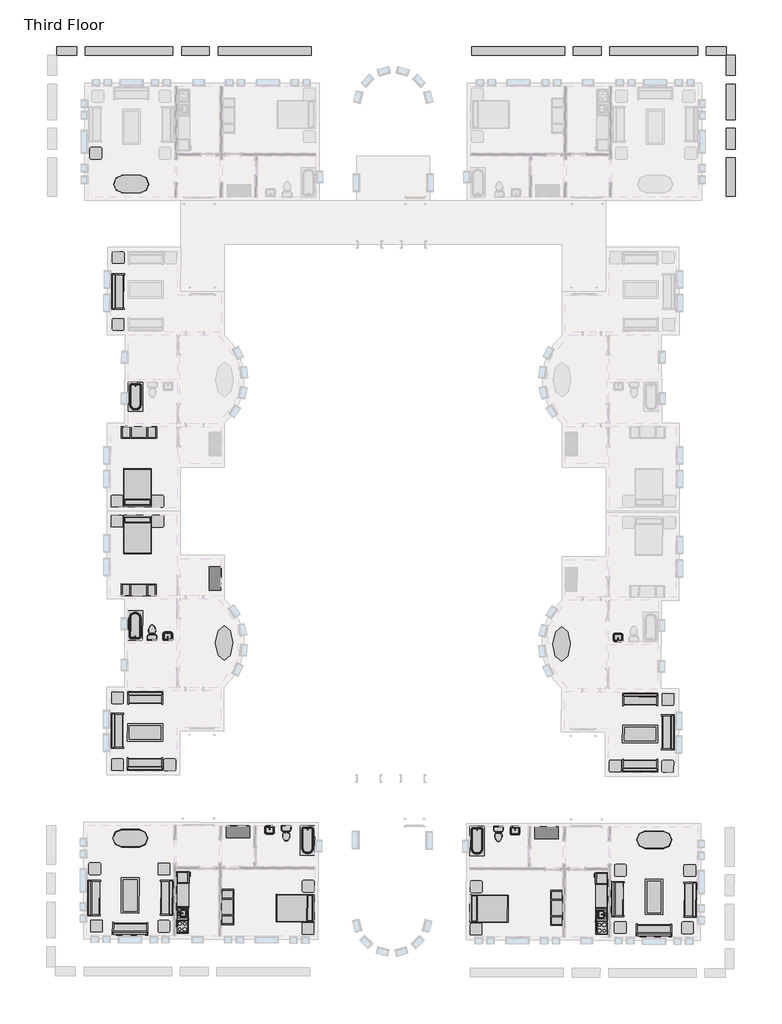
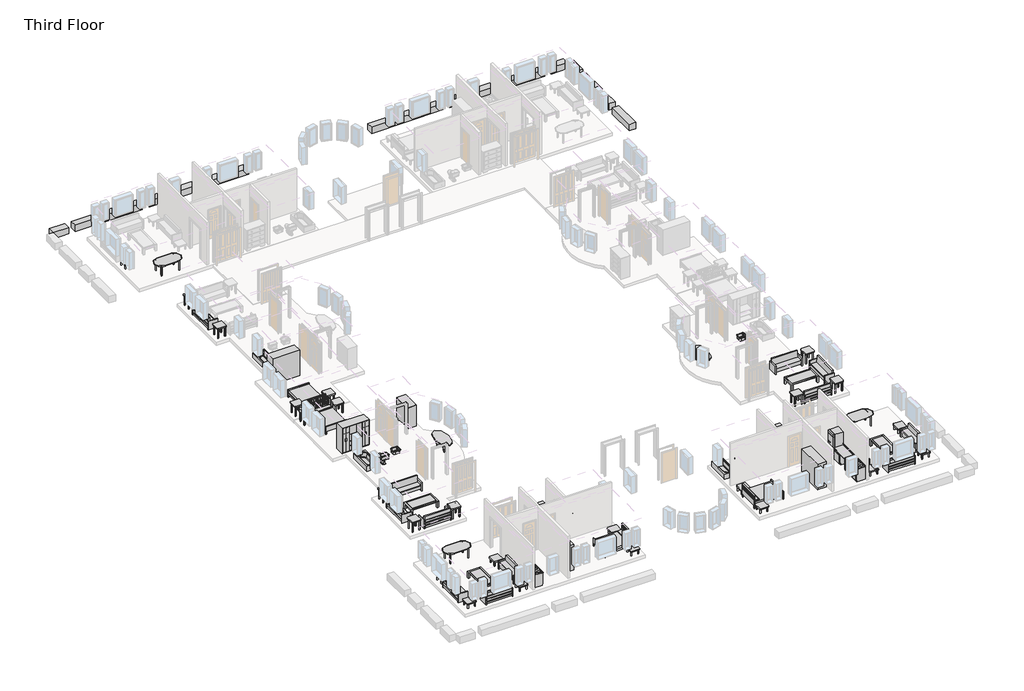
# One storey, part 4 of 5: 60 furniture elements, 13 flow terminals, 8 proxies, 3 beams.
"""IFC4 building model written with IfcOpenShell, lengths in millimetres."""

from ifc_helpers import new_model, si_unit, frame, origin, place, context, project, spatial, polyline, outline, extrude, transform, mapped, element, save
from components import m_cook_top_4_unit2_0615_x_500mm_249f3515, m_cook_top_4_unit2_0615_x_500mm_c91639ce, m_dishwasher_610_x_610_x_875mm_54ecfc4c, m_dishwasher_610_x_610_x_875mm_75336c20, m_kitchenette_medium_1372mm_e05c6bec, m_kitchenette_medium_1372mm_39f1532f, m_refrigerator_600_x_660mm_a466bf94, m_refrigerator_600_x_660mm_0a899b9c, m_sink_kitchen_island_450_x_450mm_f969cf2d, m_sink_kitchen_island_450_x_450mm_f6c2c534, m_sink_vanity_square_500_x_440mm_1e229b74, m_sink_vanity_square_500_x_440mm_f3cfe680, m_toilet_domestic_3d_m_toilet_domestic_3d_5cb52bd4, m_toilet_domestic_3d_m_toilet_domestic_3d_183bbd19, m_toilet_domestic_3d_m_toilet_domestic_3d_43425dfb, m_toilet_domestic_3d_m_toilet_domestic_3d_5530cc89, m_tub_rectangular_3d_m_tub_rectangular_3d_3a981ad5, m_tub_rectangular_3d_m_tub_rectangular_3d_c2020133, m_bed_shaker_1422_x_1981mm_double_096e7f55, m_bed_shaker_1422_x_1981mm_double_097b173b, m_counter_top_w_sink_hole_600mm_depth_1fb56bb9, m_counter_top_w_sink_hole_600mm_depth_7e9aa94d, m_dresser_1220_x_1525_x_0610mm_18e1f140, m_dresser_1220_x_1525_x_0610mm_4e5de046, m_entertainment_center_1830_x_1830_x_0610mm_f77a9b93, m_entertainment_center_1830_x_1830_x_0610mm_4f6058a0, m_sofa_1830mm_58d08fc1, m_sofa_1830mm_3da2e71b, m_sofa1_1830mm_f9e8a66b, m_sofa1_1830mm_493d6964, m_table_coffee_0915_x_1830_x_0457mm_134cd960, m_table_coffee_0915_x_1830_x_0457mm_595c1ebd, m_table_dining_oval_0915_x_1830mm_a7cfbe21, m_table_dining_oval_0915_x_1830mm_ad8305c5, m_table_ellipse_1800_x_900mm_fd46d5a5, m_table_ellipse_1800_x_900mm_f7269293, m_table_end_cb6ea12e, m_table_end_aa2764bc, m_table_end_0610_x_0160mm_e0e5b28f, m_table_end_0610_x_0160mm_ccef8dc9

model = new_model("IFC4")

# Units and contexts
model_context = context("Model", 3, world=origin())
ifc_project = project(units=[si_unit("LENGTHUNIT", "METRE", prefix="MILLI")], contexts=[model_context])

# Site, building, storey
site = spatial("IfcSite", under=ifc_project)
building = spatial("IfcBuilding", under=site)
storey = spatial("IfcBuildingStorey", under=building, Name="Third Floor", Elevation=6096.0)

# Beams
placement = place(None, origin())
element("IfcBeam", 1, ObjectType="M_Concrete-Rectangular Beam : 450 x 450", at=placement, inside=storey, context=model_context, shape_type="SweptSolid", body=[
    extrude(outline(polyline([(-1643.3416203, 4481.1188386), (-1643.3416203, 4031.1188386), (-2693.3416203, 4031.1188386), (-2693.3416203, 4481.1188386), (-1643.3416203, 4481.1188386)])), frame((0.0, 0.0, 5646.0), z_axis=(0.0, 0.0, 1.0), x_axis=(1.0, 0.0, 0.0)), (0.0, 0.0, 1.0), 450.0),
    extrude(outline(polyline([(-14885.3416203, 4031.1188386), (-14885.3416203, 4481.1188386), (-10043.3416203, 4481.1188386), (-10043.3416203, 4031.1188386), (-14885.3416203, 4031.1188386)])), frame((0.0, 0.0, 5646.0), z_axis=(0.0, 0.0, 1.0), x_axis=(1.0, 0.0, 0.0)), (0.0, 0.0, 1.0), 450.0),
    extrude(outline(polyline([(-3143.3416203, 4481.1188386), (-3143.3416203, 4031.1188386), (-7693.3416203, 4031.1188386), (-7693.3416203, 4481.1188386), (-3143.3416203, 4481.1188386)])), frame((0.0, 0.0, 5646.0), z_axis=(0.0, 0.0, 1.0), x_axis=(1.0, 0.0, 0.0)), (0.0, 0.0, 1.0), 450.0),
    extrude(outline(polyline([(-8143.3416203, 4481.1188386), (-8143.3416203, 4031.1188386), (-9593.3416203, 4031.1188386), (-9593.3416203, 4481.1188386), (-8143.3416203, 4481.1188386)])), frame((0.0, 0.0, 5646.0), z_axis=(0.0, 0.0, 1.0), x_axis=(1.0, 0.0, 0.0)), (0.0, 0.0, 1.0), 450.0),
])
element("IfcBeam", 2, ObjectType="M_Concrete-Rectangular Beam : 450 x 450", at=placement, inside=storey, context=model_context, shape_type="SweptSolid", body=[
    extrude(outline(polyline([(-1643.3416203, 4031.1188386), (-1193.3416203, 4031.1188386), (-1193.3416203, 2981.1188386), (-1643.3416203, 2981.1188386), (-1643.3416203, 4031.1188386)])), frame((0.0, 0.0, 5646.0), z_axis=(0.0, 0.0, 1.0), x_axis=(1.0, 0.0, 0.0)), (0.0, 0.0, 1.0), 450.0),
    extrude(outline(polyline([(-1193.3416203, -3289.8811614), (-1643.3416203, -3289.8811614), (-1643.3416203, -1295.3811614), (-1193.3416203, -1295.3811614), (-1193.3416203, -3289.8811614)])), frame((0.0, 0.0, 5646.0), z_axis=(0.0, 0.0, 1.0), x_axis=(1.0, 0.0, 0.0)), (0.0, 0.0, 1.0), 450.0),
    extrude(outline(polyline([(-1643.3416203, 2531.1188386), (-1193.3416203, 2531.1188386), (-1193.3416203, 681.1188386), (-1643.3416203, 681.1188386), (-1643.3416203, 2531.1188386)])), frame((0.0, 0.0, 5646.0), z_axis=(0.0, 0.0, 1.0), x_axis=(1.0, 0.0, 0.0)), (0.0, 0.0, 1.0), 450.0),
    extrude(outline(polyline([(-1643.3416203, 231.1188386), (-1193.3416203, 231.1188386), (-1193.3416203, -845.3811614), (-1643.3416203, -845.3811614), (-1643.3416203, 231.1188386)])), frame((0.0, 0.0, 5646.0), z_axis=(0.0, 0.0, 1.0), x_axis=(1.0, 0.0, 0.0)), (0.0, 0.0, 1.0), 450.0),
])
element("IfcBeam", 3, ObjectType="M_Concrete-Rectangular Beam : 450 x 450", at=placement, inside=storey, context=model_context, shape_type="SweptSolid", body=[
    extrude(outline(polyline([(-36458.8416203, 4031.1188386), (-36458.8416203, 4481.1188386), (-35408.8416203, 4481.1188386), (-35408.8416203, 4031.1188386), (-36458.8416203, 4031.1188386)])), frame((0.0, 0.0, 5646.0), z_axis=(0.0, 0.0, 1.0), x_axis=(1.0, 0.0, 0.0)), (0.0, 0.0, 1.0), 450.0),
    extrude(outline(polyline([(-23216.8416203, 4481.1188386), (-23216.8416203, 4031.1188386), (-28058.8416203, 4031.1188386), (-28058.8416203, 4481.1188386), (-23216.8416203, 4481.1188386)])), frame((0.0, 0.0, 5646.0), z_axis=(0.0, 0.0, 1.0), x_axis=(1.0, 0.0, 0.0)), (0.0, 0.0, 1.0), 450.0),
    extrude(outline(polyline([(-34958.8416203, 4031.1188386), (-34958.8416203, 4481.1188386), (-30408.8416203, 4481.1188386), (-30408.8416203, 4031.1188386), (-34958.8416203, 4031.1188386)])), frame((0.0, 0.0, 5646.0), z_axis=(0.0, 0.0, 1.0), x_axis=(1.0, 0.0, 0.0)), (0.0, 0.0, 1.0), 450.0),
    extrude(outline(polyline([(-29958.8416203, 4031.1188386), (-29958.8416203, 4481.1188386), (-28508.8416203, 4481.1188386), (-28508.8416203, 4031.1188386), (-29958.8416203, 4031.1188386)])), frame((0.0, 0.0, 5646.0), z_axis=(0.0, 0.0, 1.0), x_axis=(1.0, 0.0, 0.0)), (0.0, 0.0, 1.0), 450.0),
])

# Proxies
m_cook_top_4_unit2_0615_x_500mm_shape = m_cook_top_4_unit2_0615_x_500mm_249f3515(model_context)
element("IfcBuildingElementProxy", 4, Name="M_Cook Top-4 Unit2 : 0615 x 500mm", ObjectType="M_Cook Top-4 Unit2 : 0615 x 500mm", at=placement, inside=storey, context=model_context, shape_type="MappedRepresentation", body=[
    mapped(m_cook_top_4_unit2_0615_x_500mm_shape, transform((-29921.672142, -41252.4695151, 6096.0), x_axis=(0.0028948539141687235, 0.9999958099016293, 0.0), y_axis=(-0.9999958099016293, 0.0028948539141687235, 0.0), z_axis=(0.0, 0.0, 1.0))),
])
m_cook_top_4_unit2_0615_x_500mm_2_shape = m_cook_top_4_unit2_0615_x_500mm_c91639ce(model_context)
element("IfcBuildingElementProxy", 5, Name="M_Cook Top-4 Unit2 : 0615 x 500mm", ObjectType="M_Cook Top-4 Unit2 : 0615 x 500mm", at=placement, inside=storey, context=model_context, shape_type="MappedRepresentation", body=[
    mapped(m_cook_top_4_unit2_0615_x_500mm_2_shape, transform((-8117.5635037, -41315.5894888, 6096.0), x_axis=(0.0028948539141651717, 0.9999958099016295, 0.0), y_axis=(-0.9999958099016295, 0.0028948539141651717, 0.0), z_axis=(0.0, 0.0, 1.0))),
])
m_dishwasher_610_x_610_x_875mm_shape = m_dishwasher_610_x_610_x_875mm_54ecfc4c(model_context)
element("IfcBuildingElementProxy", 6, Name="M_Dishwasher : 610 x 610 x 875mm", ObjectType="M_Dishwasher : 610 x 610 x 875mm", at=placement, inside=storey, context=model_context, shape_type="MappedRepresentation", body=[
    mapped(m_dishwasher_610_x_610_x_875mm_shape, transform((-29650.5063255, -39692.7654337, 6096.0), x_axis=(0.0028948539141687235, 0.9999958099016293, 0.0), y_axis=(-0.9999958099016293, 0.0028948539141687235, 0.0), z_axis=(0.0, 0.0, 1.0))),
])
m_dishwasher_610_x_610_x_875mm_2_shape = m_dishwasher_610_x_610_x_875mm_75336c20(model_context)
element("IfcBuildingElementProxy", 7, Name="M_Dishwasher : 610 x 610 x 875mm", ObjectType="M_Dishwasher : 610 x 610 x 875mm", at=placement, inside=storey, context=model_context, shape_type="MappedRepresentation", body=[
    mapped(m_dishwasher_610_x_610_x_875mm_2_shape, transform((-8379.6945822, -39754.3415843, 6096.0), x_axis=(0.0028948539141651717, 0.9999958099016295, 0.0), y_axis=(-0.9999958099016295, 0.0028948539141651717, 0.0), z_axis=(0.0, 0.0, 1.0))),
])
m_kitchenette_medium_1372mm_shape = m_kitchenette_medium_1372mm_e05c6bec(model_context)
element("IfcBuildingElementProxy", 8, Name="M_Kitchenette - Medium : 1372mm", ObjectType="M_Kitchenette - Medium : 1372mm", at=placement, inside=storey, context=model_context, shape_type="MappedRepresentation", body=[
    mapped(m_kitchenette_medium_1372mm_shape, transform((-30225.732172, -40927.3256482, 6096.0), x_axis=(0.0028948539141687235, 0.9999958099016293, 0.0), y_axis=(-0.9999958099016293, 0.0028948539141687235, 0.0), z_axis=(0.0, 0.0, 1.0))),
])
m_kitchenette_medium_1372mm_2_shape = m_kitchenette_medium_1372mm_39f1532f(model_context)
element("IfcBuildingElementProxy", 9, Name="M_Kitchenette - Medium : 1372mm", ObjectType="M_Kitchenette - Medium : 1372mm", at=placement, inside=storey, context=model_context, shape_type="MappedRepresentation", body=[
    mapped(m_kitchenette_medium_1372mm_2_shape, transform((-7811.6260897, -40992.2114828, 6096.0), x_axis=(0.0028948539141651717, 0.9999958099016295, 0.0), y_axis=(-0.9999958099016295, 0.0028948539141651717, 0.0), z_axis=(0.0, 0.0, 1.0))),
])
m_refrigerator_600_x_660mm_shape = m_refrigerator_600_x_660mm_a466bf94(model_context)
element("IfcBuildingElementProxy", 10, Name="M_Refrigerator : 600 x 660mm", ObjectType="M_Refrigerator : 600 x 660mm", at=placement, inside=storey, context=model_context, shape_type="MappedRepresentation", body=[
    mapped(m_refrigerator_600_x_660mm_shape, transform((-29922.9251807, -38650.6538432, 6096.0), x_axis=(0.0028948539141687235, 0.9999958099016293, 0.0), y_axis=(-0.9999958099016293, 0.0028948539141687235, 0.0), z_axis=(0.0, 0.0, 1.0))),
])
m_refrigerator_600_x_660mm_2_shape = m_refrigerator_600_x_660mm_0a899b9c(model_context)
element("IfcBuildingElementProxy", 11, Name="M_Refrigerator : 600 x 660mm", ObjectType="M_Refrigerator : 600 x 660mm", at=placement, inside=storey, context=model_context, shape_type="MappedRepresentation", body=[
    mapped(m_refrigerator_600_x_660mm_2_shape, transform((-8101.2467965, -38713.824679, 6096.0), x_axis=(0.0028948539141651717, 0.9999958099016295, 0.0), y_axis=(-0.9999958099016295, 0.0028948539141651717, 0.0), z_axis=(0.0, 0.0, 1.0))),
])

# Flow terminals
m_sink_kitchen_island_450_x_450mm_shape = m_sink_kitchen_island_450_x_450mm_f969cf2d(model_context)
element("IfcFlowTerminal", 12, ObjectType="M_Sink Kitchen-Island : 450 x 450mm", at=placement, inside=storey, context=model_context, shape_type="MappedRepresentation", body=[
    mapped(m_sink_kitchen_island_450_x_450mm_shape, transform((-29917.3862989, -40582.1683539, 6096.0), x_axis=(0.0028948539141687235, 0.9999958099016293, 0.0), y_axis=(-0.9999958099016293, 0.0028948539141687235, 0.0), z_axis=(0.0, 0.0, 1.0))),
])
m_sink_kitchen_island_450_x_450mm_2_shape = m_sink_kitchen_island_450_x_450mm_f6c2c534(model_context)
element("IfcFlowTerminal", 13, ObjectType="M_Sink Kitchen-Island : 450 x 450mm", at=placement, inside=storey, context=model_context, shape_type="MappedRepresentation", body=[
    mapped(m_sink_kitchen_island_450_x_450mm_2_shape, transform((-8117.9684433, -40645.2747484, 6096.0), x_axis=(0.0028948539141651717, 0.9999958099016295, 0.0), y_axis=(-0.9999958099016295, 0.0028948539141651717, 0.0), z_axis=(0.0, 0.0, 1.0))),
])
m_sink_vanity_square_500_x_440mm_shape = m_sink_vanity_square_500_x_440mm_1e229b74(model_context)
element("IfcFlowTerminal", 14, ObjectType="M_Sink Vanity-Square : 500 x 440mm", at=placement, inside=storey, context=model_context, shape_type="MappedRepresentation", body=[
    mapped(m_sink_vanity_square_500_x_440mm_shape, transform((-7255.849628, -26269.4593372, 6096.0), x_axis=(-0.9999905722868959, 0.00434227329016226, 0.0), y_axis=(-0.0043422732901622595, -0.9999905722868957, 0.0), z_axis=(0.0, 0.0, 0.9999999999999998))),
])
element("IfcFlowTerminal", 15, ObjectType="M_Sink Vanity-Square : 500 x 440mm", at=placement, inside=storey, context=model_context, shape_type="MappedRepresentation", body=[
    mapped(m_sink_vanity_square_500_x_440mm_shape, transform((-25398.4470959, -36193.3769715, 6096.0), x_axis=(0.9999958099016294, -0.0028948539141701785, 0.0), y_axis=(0.0028948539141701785, 0.9999958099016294, 0.0), z_axis=(0.0, 0.0, 1.0))),
])
m_sink_vanity_square_500_x_440mm_2_shape = m_sink_vanity_square_500_x_440mm_f3cfe680(model_context)
element("IfcFlowTerminal", 16, ObjectType="M_Sink Vanity-Square : 500 x 440mm", at=placement, inside=storey, context=model_context, shape_type="MappedRepresentation", body=[
    mapped(m_sink_vanity_square_500_x_440mm_2_shape, transform((-12611.4221939, -36230.3936957, 6096.0), x_axis=(-0.9999958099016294, 0.002894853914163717, 0.0), y_axis=(-0.002894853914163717, -0.9999958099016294, 0.0), z_axis=(0.0, 0.0, 1.0))),
])
element("IfcFlowTerminal", 17, ObjectType="M_Sink Vanity-Square : 500 x 440mm", at=placement, inside=storey, context=model_context, shape_type="MappedRepresentation", body=[
    mapped(m_sink_vanity_square_500_x_440mm_2_shape, transform((-30696.2592425, -26201.6024913, 6096.0), x_axis=(0.9999989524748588, -0.001447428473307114, 0.0), y_axis=(0.0014474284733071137, 0.9999989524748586, 0.0), z_axis=(0.0, 0.0, 0.9999999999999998))),
])
m_toilet_domestic_3d_m_toilet_domestic_3d_shape = m_toilet_domestic_3d_m_toilet_domestic_3d_5cb52bd4(model_context)
m_toilet_domestic_3d_m_toilet_domestic_3d_2_shape = m_toilet_domestic_3d_m_toilet_domestic_3d_183bbd19(model_context)
element("IfcFlowTerminal", 18, ObjectType="M_Toilet-Domestic-3D : M_Toilet-Domestic-3D", at=placement, inside=storey, context=model_context, shape_type="MappedRepresentation", body=[
    mapped(m_toilet_domestic_3d_m_toilet_domestic_3d_shape, transform((-24522.1713775, -36508.8406097, 6096.0), x_axis=(0.9999958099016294, -0.00289485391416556, 0.0), y_axis=(0.00289485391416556, 0.9999958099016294, 0.0), z_axis=(0.0, 0.0, 1.0))),
    mapped(m_toilet_domestic_3d_m_toilet_domestic_3d_2_shape, transform((-24522.1713775, -36508.8406097, 6096.0), x_axis=(0.9999958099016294, -0.00289485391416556, 0.0), y_axis=(0.00289485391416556, 0.9999958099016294, 0.0), z_axis=(0.0, 0.0, 1.0))),
])
m_toilet_domestic_3d_m_toilet_domestic_3d_3_shape = m_toilet_domestic_3d_m_toilet_domestic_3d_43425dfb(model_context)
m_toilet_domestic_3d_m_toilet_domestic_3d_4_shape = m_toilet_domestic_3d_m_toilet_domestic_3d_5530cc89(model_context)
element("IfcFlowTerminal", 19, ObjectType="M_Toilet-Domestic-3D : M_Toilet-Domestic-3D", at=placement, inside=storey, context=model_context, shape_type="MappedRepresentation", body=[
    mapped(m_toilet_domestic_3d_m_toilet_domestic_3d_3_shape, transform((-13489.5096603, -36540.7786875, 6096.0), x_axis=(-0.9999958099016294, 0.002894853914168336, 0.0), y_axis=(-0.002894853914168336, -0.9999958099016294, 0.0), z_axis=(0.0, 0.0, 1.0))),
    mapped(m_toilet_domestic_3d_m_toilet_domestic_3d_4_shape, transform((-13489.5096603, -36540.7786875, 6096.0), x_axis=(-0.9999958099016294, 0.002894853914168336, 0.0), y_axis=(-0.002894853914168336, -0.9999958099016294, 0.0), z_axis=(0.0, 0.0, 1.0))),
])
element("IfcFlowTerminal", 20, ObjectType="M_Toilet-Domestic-3D1 : M_Toilet-Domestic-3D", at=placement, inside=storey, context=model_context, shape_type="MappedRepresentation", body=[
    mapped(m_toilet_domestic_3d_m_toilet_domestic_3d_3_shape, transform((-31493.0231805, -25877.7982671, 6096.0), x_axis=(0.9999989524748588, -0.001447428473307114, 0.0), y_axis=(0.0014474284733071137, 0.9999989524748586, 0.0), z_axis=(0.0, 0.0, 0.9999999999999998))),
    mapped(m_toilet_domestic_3d_m_toilet_domestic_3d_4_shape, transform((-31493.0231805, -25877.7982671, 6096.0), x_axis=(0.9999989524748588, -0.001447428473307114, 0.0), y_axis=(0.0014474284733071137, 0.9999989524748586, 0.0), z_axis=(0.0, 0.0, 0.9999999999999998))),
])
m_tub_rectangular_3d_m_tub_rectangular_3d_shape = m_tub_rectangular_3d_m_tub_rectangular_3d_3a981ad5(model_context)
element("IfcFlowTerminal", 21, ObjectType="M_Tub-Rectangular-3D : M_Tub-Rectangular-3D", at=placement, inside=storey, context=model_context, shape_type="MappedRepresentation", body=[
    mapped(m_tub_rectangular_3d_m_tub_rectangular_3d_shape, transform((-22854.3573612, -37129.57823, 6096.0), x_axis=(-0.0028948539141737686, -0.9999958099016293, 0.0), y_axis=(0.9999958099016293, -0.0028948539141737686, 0.0), z_axis=(0.0, 0.0, 1.0))),
])
element("IfcFlowTerminal", 22, ObjectType="M_Tub-Rectangular-3D : M_Tub-Rectangular-3D", at=placement, inside=storey, context=model_context, shape_type="MappedRepresentation", body=[
    mapped(m_tub_rectangular_3d_m_tub_rectangular_3d_shape, transform((-32926.5841692, -25259.8157014, 6096.0), x_axis=(0.0014474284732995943, 0.9999989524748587, 0.0), y_axis=(-0.9999989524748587, 0.0014474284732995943, 0.0), z_axis=(0.0, 0.0, 1.0))),
])
m_tub_rectangular_3d_m_tub_rectangular_3d_2_shape = m_tub_rectangular_3d_m_tub_rectangular_3d_c2020133(model_context)
element("IfcFlowTerminal", 23, ObjectType="M_Tub-Rectangular-3D : M_Tub-Rectangular-3D", at=placement, inside=storey, context=model_context, shape_type="MappedRepresentation", body=[
    mapped(m_tub_rectangular_3d_m_tub_rectangular_3d_2_shape, transform((-32910.3874532, -14069.8333606, 6096.0), x_axis=(-0.0014474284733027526, -0.9999989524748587, 0.0), y_axis=(0.9999989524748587, -0.0014474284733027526, 0.0), z_axis=(0.0, 0.0, 1.0))),
])
element("IfcFlowTerminal", 24, ObjectType="M_Tub-Rectangular-3D : M_Tub-Rectangular-3D", at=placement, inside=storey, context=model_context, shape_type="MappedRepresentation", body=[
    mapped(m_tub_rectangular_3d_m_tub_rectangular_3d_2_shape, transform((-15160.8895978, -37151.8497886, 6096.0), x_axis=(-0.0028948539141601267, -0.9999958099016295, 0.0), y_axis=(0.9999958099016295, -0.0028948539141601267, 0.0), z_axis=(0.0, 0.0, 1.0))),
])

# Furniture
m_bed_shaker_1422_x_1981mm_double_shape = m_bed_shaker_1422_x_1981mm_double_096e7f55(model_context)
element("IfcFurniture", 25, ObjectType="M_Bed-Shaker : 1422 x 1981mm - Double", at=placement, inside=storey, context=model_context, shape_type="MappedRepresentation", body=[
    mapped(m_bed_shaker_1422_x_1981mm_double_shape, transform((-32265.3963493, -19430.7695861, 6096.0), x_axis=(-0.9999989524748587, 0.0014474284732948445, 0.0), y_axis=(-0.0014474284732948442, -0.9999989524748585, 0.0), z_axis=(0.0, 0.0, 0.9999999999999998))),
])
element("IfcFurniture", 26, ObjectType="M_Bed-Shaker : 1422 x 1981mm - Double", at=placement, inside=storey, context=model_context, shape_type="MappedRepresentation", body=[
    mapped(m_bed_shaker_1422_x_1981mm_double_shape, transform((-23068.6004859, -40322.2184362, 6096.0), x_axis=(-0.002894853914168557, -0.9999958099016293, 0.0), y_axis=(0.9999958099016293, -0.002894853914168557, 0.0), z_axis=(0.0, 0.0, 1.0))),
])
m_bed_shaker_1422_x_1981mm_double_2_shape = m_bed_shaker_1422_x_1981mm_double_097b173b(model_context)
element("IfcFurniture", 27, ObjectType="M_Bed-Shaker : 1422 x 1981mm - Double", at=placement, inside=storey, context=model_context, shape_type="MappedRepresentation", body=[
    mapped(m_bed_shaker_1422_x_1981mm_double_2_shape, transform((-14965.1344404, -40345.6768849, 6096.0), x_axis=(-0.0028948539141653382, -0.9999958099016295, 0.0), y_axis=(0.9999958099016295, -0.0028948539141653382, 0.0), z_axis=(0.0, 0.0, 1.0))),
])
element("IfcFurniture", 28, ObjectType="M_Bed-Shaker : 1422 x 1981mm - Double", at=placement, inside=storey, context=model_context, shape_type="MappedRepresentation", body=[
    mapped(m_bed_shaker_1422_x_1981mm_double_2_shape, transform((-32266.0766407, -19900.7690938, 6096.0), x_axis=(-0.9999989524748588, 0.0014474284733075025, 0.0), y_axis=(-0.0014474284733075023, -0.9999989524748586, 0.0), z_axis=(0.0, 0.0, 0.9999999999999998))),
])
m_counter_top_w_sink_hole_600mm_depth_shape = m_counter_top_w_sink_hole_600mm_depth_1fb56bb9(model_context)
element("IfcFurniture", 29, ObjectType="M_Counter Top w Sink Hole : 600mm Depth", at=placement, inside=storey, context=model_context, shape_type="MappedRepresentation", body=[
    mapped(m_counter_top_w_sink_hole_600mm_depth_shape, transform((-30224.1886359, -40394.1278824, 6096.0), x_axis=(0.0028948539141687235, 0.9999958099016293, 0.0), y_axis=(-0.9999958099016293, 0.0028948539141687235, 0.0), z_axis=(0.0, 0.0, 1.0))),
])
m_counter_top_w_sink_hole_600mm_depth_2_shape = m_counter_top_w_sink_hole_600mm_depth_7e9aa94d(model_context)
element("IfcFurniture", 30, ObjectType="M_Counter Top w Sink Hole : 600mm Depth", at=placement, inside=storey, context=model_context, shape_type="MappedRepresentation", body=[
    mapped(m_counter_top_w_sink_hole_600mm_depth_2_shape, transform((-7810.0825536, -40459.013717, 6096.0), x_axis=(0.0028948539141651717, 0.9999958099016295, 0.0), y_axis=(-0.9999958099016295, 0.0028948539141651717, 0.0), z_axis=(0.0, 0.0, 1.0))),
])
m_dresser_1220_x_1525_x_0610mm_shape = m_dresser_1220_x_1525_x_0610mm_18e1f140(model_context)
element("IfcFurniture", 31, ObjectType="M_Dresser : 1220 x 1525 x 0610mm", at=placement, inside=storey, context=model_context, shape_type="MappedRepresentation", body=[
    mapped(m_dresser_1220_x_1525_x_0610mm_shape, transform((-27295.820683, -36698.2790207, 6096.0), x_axis=(-0.9999958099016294, 0.0028948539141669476, 0.0), y_axis=(-0.0028948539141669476, -0.9999958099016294, 0.0), z_axis=(0.0, 0.0, 1.0))),
])
m_dresser_1220_x_1525_x_0610mm_2_shape = m_dresser_1220_x_1525_x_0610mm_4e5de046(model_context)
element("IfcFurniture", 32, ObjectType="M_Dresser : 1220 x 1525 x 0610mm", at=placement, inside=storey, context=model_context, shape_type="MappedRepresentation", body=[
    mapped(m_dresser_1220_x_1525_x_0610mm_2_shape, transform((-10717.0036305, -36746.2724752, 6096.0), x_axis=(0.9999958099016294, -0.002894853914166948, 0.0), y_axis=(0.002894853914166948, 0.9999958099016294, 0.0), z_axis=(0.0, 0.0, 1.0))),
])
element("IfcFurniture", 33, ObjectType="M_Dresser : 1220 x 1525 x 0610mm", at=placement, inside=storey, context=model_context, shape_type="MappedRepresentation", body=[
    mapped(m_dresser_1220_x_1525_x_0610mm_2_shape, transform((-28585.490131, -23427.2934334, 6096.0), x_axis=(-0.0014474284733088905, -0.9999989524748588, 0.0), y_axis=(0.9999989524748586, -0.0014474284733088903, 0.0), z_axis=(0.0, 0.0, 0.9999999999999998))),
])
m_entertainment_center_1830_x_1830_x_0610mm_shape = m_entertainment_center_1830_x_1830_x_0610mm_f77a9b93(model_context)
element("IfcFurniture", 34, ObjectType="M_Entertainment center : 1830 x 1830 x 0610mm", at=placement, inside=storey, context=model_context, shape_type="MappedRepresentation", body=[
    mapped(m_entertainment_center_1830_x_1830_x_0610mm_shape, transform((-32173.151944, -15980.2994888, 6096.0), x_axis=(-0.9999989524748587, 0.0014474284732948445, 0.0), y_axis=(-0.0014474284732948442, -0.9999989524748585, 0.0), z_axis=(0.0, 0.0, 0.9999999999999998))),
])
element("IfcFurniture", 35, ObjectType="M_Entertainment center : 1830 x 1830 x 0610mm", at=placement, inside=storey, context=model_context, shape_type="MappedRepresentation", body=[
    mapped(m_entertainment_center_1830_x_1830_x_0610mm_shape, transform((-27155.4724705, -40237.537184, 6096.0), x_axis=(-0.0028948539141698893, -0.9999958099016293, 0.0), y_axis=(0.9999958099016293, -0.0028948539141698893, 0.0), z_axis=(0.0, 0.0, 1.0))),
])
m_entertainment_center_1830_x_1830_x_0610mm_2_shape = m_entertainment_center_1830_x_1830_x_0610mm_4f6058a0(model_context)
element("IfcFurniture", 36, ObjectType="M_Entertainment center : 1830 x 1830 x 0610mm", at=placement, inside=storey, context=model_context, shape_type="MappedRepresentation", body=[
    mapped(m_entertainment_center_1830_x_1830_x_0610mm_2_shape, transform((-10877.8406756, -40284.6587476, 6096.0), x_axis=(-0.002894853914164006, -0.9999958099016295, 0.0), y_axis=(0.9999958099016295, -0.002894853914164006, 0.0), z_axis=(0.0, 0.0, 1.0))),
])
element("IfcFurniture", 37, ObjectType="M_Entertainment center : 1830 x 1830 x 0610mm", at=placement, inside=storey, context=model_context, shape_type="MappedRepresentation", body=[
    mapped(m_entertainment_center_1830_x_1830_x_0610mm_2_shape, transform((-32183.8212288, -23351.4917673, 6096.0), x_axis=(-0.9999989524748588, 0.0014474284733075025, 0.0), y_axis=(-0.0014474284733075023, -0.9999989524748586, 0.0), z_axis=(0.0, 0.0, 0.9999999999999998))),
])
m_sofa_1830mm_shape = m_sofa_1830mm_58d08fc1(model_context)
element("IfcFurniture", 38, ObjectType="M_Sofa : 1830mm", at=placement, inside=storey, context=model_context, shape_type="MappedRepresentation", body=[
    mapped(m_sofa_1830mm_shape, transform((-32562.8997947, -41230.7335351, 6096.0), x_axis=(-0.9999958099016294, 0.0028948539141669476, 0.0), y_axis=(-0.0028948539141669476, -0.9999958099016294, 0.0), z_axis=(0.0, 0.0, 1.0))),
])
element("IfcFurniture", 39, ObjectType="M_Sofa : 1830mm", at=placement, inside=storey, context=model_context, shape_type="MappedRepresentation", body=[
    mapped(m_sofa_1830mm_shape, transform((-34355.4280294, -39842.8427064, 6096.0), x_axis=(0.0028948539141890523, 0.9999958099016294, 0.0), y_axis=(-0.9999958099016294, 0.0028948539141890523, 0.0), z_axis=(0.0, 0.0, 1.0))),
])
element("IfcFurniture", 40, ObjectType="M_Sofa : 1830mm", at=placement, inside=storey, context=model_context, shape_type="MappedRepresentation", body=[
    mapped(m_sofa_1830mm_shape, transform((-30883.7111212, -39691.3716975, 6096.0), x_axis=(-0.002894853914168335, -0.9999958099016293, 0.0), y_axis=(0.9999958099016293, -0.002894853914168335, 0.0), z_axis=(0.0, 0.0, 1.0))),
])
m_sofa_1830mm_2_shape = m_sofa_1830mm_3da2e71b(model_context)
element("IfcFurniture", 41, ObjectType="M_Sofa : 1830mm", at=placement, inside=storey, context=model_context, shape_type="MappedRepresentation", body=[
    mapped(m_sofa_1830mm_2_shape, transform((-5476.2542745, -41309.1457454, 6096.0), x_axis=(0.9999958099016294, -0.002894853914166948, 0.0), y_axis=(0.002894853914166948, 0.9999958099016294, 0.0), z_axis=(0.0, 0.0, 1.0))),
])
element("IfcFurniture", 42, ObjectType="M_Sofa : 1830mm", at=placement, inside=storey, context=model_context, shape_type="MappedRepresentation", body=[
    mapped(m_sofa_1830mm_2_shape, transform((-3675.7206344, -39931.6563496, 6096.0), x_axis=(0.002894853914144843, 0.9999958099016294, 0.0), y_axis=(-0.9999958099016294, 0.002894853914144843, 0.0), z_axis=(0.0, 0.0, 1.0))),
])
element("IfcFurniture", 43, ObjectType="M_Sofa : 1830mm", at=placement, inside=storey, context=model_context, shape_type="MappedRepresentation", body=[
    mapped(m_sofa_1830mm_2_shape, transform((-7146.5023862, -39760.087737, 6096.0), x_axis=(-0.0028948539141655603, -0.9999958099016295, 0.0), y_axis=(0.9999958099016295, -0.0028948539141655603, 0.0), z_axis=(0.0, 0.0, 1.0))),
])
m_sofa1_1830mm_shape = m_sofa1_1830mm_f9e8a66b(model_context)
element("IfcFurniture", 44, ObjectType="M_Sofa1 : 1830mm", at=placement, inside=storey, context=model_context, shape_type="MappedRepresentation", body=[
    mapped(m_sofa1_1830mm_shape, transform((-33110.3167447, -8323.9054813, 6096.0), x_axis=(0.0014474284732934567, 0.9999989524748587, 0.0), y_axis=(-0.9999989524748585, 0.0014474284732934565, 0.0), z_axis=(0.0, 0.0, 0.9999999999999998))),
])
element("IfcFurniture", 45, ObjectType="M_Sofa1 : 1830mm", at=placement, inside=storey, context=model_context, shape_type="MappedRepresentation", body=[
    mapped(m_sofa1_1830mm_shape, transform((-4836.8146029, -31087.0837768, 6096.0), x_axis=(-0.004342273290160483, -0.9999905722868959, 0.0), y_axis=(0.9999905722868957, -0.004342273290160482, 0.0), z_axis=(0.0, 0.0, 0.9999999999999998))),
])
element("IfcFurniture", 46, ObjectType="M_Sofa1 : 1830mm", at=placement, inside=storey, context=model_context, shape_type="MappedRepresentation", body=[
    mapped(m_sofa1_1830mm_shape, transform((-6189.5797831, -29598.4702567, 6096.0), x_axis=(0.9999905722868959, -0.004342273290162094, 0.0), y_axis=(0.004342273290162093, 0.9999905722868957, 0.0), z_axis=(0.0, 0.0, 0.9999999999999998))),
])
element("IfcFurniture", 47, ObjectType="M_Sofa1 : 1830mm", at=placement, inside=storey, context=model_context, shape_type="MappedRepresentation", body=[
    mapped(m_sofa1_1830mm_shape, transform((-6062.461585, -32735.9936216, 6096.0), x_axis=(-0.9999905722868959, 0.00434227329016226, 0.0), y_axis=(-0.0043422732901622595, -0.9999905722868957, 0.0), z_axis=(0.0, 0.0, 0.9999999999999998))),
])
m_sofa1_1830mm_2_shape = m_sofa1_1830mm_493d6964(model_context)
element("IfcFurniture", 48, ObjectType="M_Sofa1 : 1830mm", at=placement, inside=storey, context=model_context, shape_type="MappedRepresentation", body=[
    mapped(m_sofa1_1830mm_2_shape, transform((-33143.1462448, -31005.1407385, 6096.0), x_axis=(-0.0014474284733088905, -0.9999989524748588, 0.0), y_axis=(0.9999989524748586, -0.0014474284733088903, 0.0), z_axis=(0.0, 0.0, 0.9999999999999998))),
])
element("IfcFurniture", 49, ObjectType="M_Sofa1 : 1830mm", at=placement, inside=storey, context=model_context, shape_type="MappedRepresentation", body=[
    mapped(m_sofa1_1830mm_2_shape, transform((-31781.7851362, -29524.3842504, 6096.0), x_axis=(-0.9999989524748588, 0.0014474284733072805, 0.0), y_axis=(-0.0014474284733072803, -0.9999989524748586, 0.0), z_axis=(0.0, 0.0, 0.9999999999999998))),
])
element("IfcFurniture", 50, ObjectType="M_Sofa1 : 1830mm", at=placement, inside=storey, context=model_context, shape_type="MappedRepresentation", body=[
    mapped(m_sofa1_1830mm_2_shape, transform((-31927.0664712, -32661.1190552, 6096.0), x_axis=(0.9999989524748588, -0.001447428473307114, 0.0), y_axis=(0.0014474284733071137, 0.9999989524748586, 0.0), z_axis=(0.0, 0.0, 0.9999999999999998))),
])
m_table_coffee_0915_x_1830_x_0457mm_shape = m_table_coffee_0915_x_1830_x_0457mm_134cd960(model_context)
element("IfcFurniture", 51, ObjectType="M_Table-Coffee : 0915 x 1830 x 0457mm", at=placement, inside=storey, context=model_context, shape_type="MappedRepresentation", body=[
    mapped(m_table_coffee_0915_x_1830_x_0457mm_shape, transform((-6145.0704326, -31347.7369995, 6096.0), x_axis=(0.9999905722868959, -0.004342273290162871, 0.0), y_axis=(0.00434227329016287, 0.9999905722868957, 0.0), z_axis=(0.0, 0.0, 0.9999999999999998))),
])
element("IfcFurniture", 52, ObjectType="M_Table-Coffee : 0915 x 1830 x 0457mm", at=placement, inside=storey, context=model_context, shape_type="MappedRepresentation", body=[
    mapped(m_table_coffee_0915_x_1830_x_0457mm_shape, transform((-32723.8138427, -39618.1492872, 6096.0), x_axis=(-0.0028948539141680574, -0.9999958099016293, 0.0), y_axis=(0.9999958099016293, -0.0028948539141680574, 0.0), z_axis=(0.0, 0.0, 1.0))),
])
m_table_coffee_0915_x_1830_x_0457mm_2_shape = m_table_coffee_0915_x_1830_x_0457mm_595c1ebd(model_context)
element("IfcFurniture", 53, ObjectType="M_Table-Coffee : 0915 x 1830 x 0457mm", at=placement, inside=storey, context=model_context, shape_type="MappedRepresentation", body=[
    mapped(m_table_coffee_0915_x_1830_x_0457mm_2_shape, transform((-5306.0065709, -39697.5201665, 6096.0), x_axis=(-0.002894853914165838, -0.9999958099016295, 0.0), y_axis=(0.9999958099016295, -0.002894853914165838, 0.0), z_axis=(0.0, 0.0, 1.0))),
])
element("IfcFurniture", 54, ObjectType="M_Table-Coffee : 0915 x 1830 x 0457mm", at=placement, inside=storey, context=model_context, shape_type="MappedRepresentation", body=[
    mapped(m_table_coffee_0915_x_1830_x_0457mm_2_shape, transform((-31836.4214416, -31273.3639798, 6096.0), x_axis=(-0.9999989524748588, 0.0014474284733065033, 0.0), y_axis=(-0.001447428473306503, -0.9999989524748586, 0.0), z_axis=(0.0, 0.0, 0.9999999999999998))),
])
m_table_dining_oval_0915_x_1830mm_shape = m_table_dining_oval_0915_x_1830mm_a7cfbe21(model_context)
element("IfcFurniture", 55, ObjectType="M_Table-Dining Oval : 0915 x 1830mm", at=placement, inside=storey, context=model_context, shape_type="MappedRepresentation", body=[
    mapped(m_table_dining_oval_0915_x_1830mm_shape, transform((-33022.9144028, -37024.136693, 6096.0), x_axis=(-0.9999958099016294, 0.0028948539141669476, 0.0), y_axis=(-0.0028948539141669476, -0.9999958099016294, 0.0), z_axis=(0.0, 0.0, 1.0))),
])
m_table_dining_oval_0915_x_1830mm_2_shape = m_table_dining_oval_0915_x_1830mm_ad8305c5(model_context)
element("IfcFurniture", 56, ObjectType="M_Table-Dining Oval : 0915 x 1830mm", at=placement, inside=storey, context=model_context, shape_type="MappedRepresentation", body=[
    mapped(m_table_dining_oval_0915_x_1830mm_2_shape, transform((-32972.6612925, -2305.2828007, 6096.0), x_axis=(-1.0, 0.0, 0.0), y_axis=(0.0, -1.0, 0.0), z_axis=(0.0, 0.0, 1.0))),
])
element("IfcFurniture", 57, ObjectType="M_Table-Dining Oval : 0915 x 1830mm", at=placement, inside=storey, context=model_context, shape_type="MappedRepresentation", body=[
    mapped(m_table_dining_oval_0915_x_1830mm_2_shape, transform((-4991.8925118, -37105.2827464, 6096.0), x_axis=(0.9999958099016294, -0.002894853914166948, 0.0), y_axis=(0.002894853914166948, 0.9999958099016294, 0.0), z_axis=(0.0, 0.0, 1.0))),
])
m_table_ellipse_1800_x_900mm_shape = m_table_ellipse_1800_x_900mm_fd46d5a5(model_context)
element("IfcFurniture", 58, ObjectType="M_Table-Ellipse : 1800 x 900mm", at=placement, inside=storey, context=model_context, shape_type="MappedRepresentation", body=[
    mapped(m_table_ellipse_1800_x_900mm_shape, transform((-10207.0715038, -26564.192505, 6096.0), x_axis=(-0.004342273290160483, -0.9999905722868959, 0.0), y_axis=(0.9999905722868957, -0.004342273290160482, 0.0), z_axis=(0.0, 0.0, 0.9999999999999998))),
])
m_table_ellipse_1800_x_900mm_2_shape = m_table_ellipse_1800_x_900mm_f7269293(model_context)
element("IfcFurniture", 59, ObjectType="M_Table-Ellipse : 1800 x 900mm", at=placement, inside=storey, context=model_context, shape_type="MappedRepresentation", body=[
    mapped(m_table_ellipse_1800_x_900mm_2_shape, transform((-27746.793242, -26513.4173601, 6096.0), x_axis=(-0.0014474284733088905, -0.9999989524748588, 0.0), y_axis=(0.9999989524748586, -0.0014474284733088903, 0.0), z_axis=(0.0, 0.0, 0.9999999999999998))),
])
m_table_end_shape = m_table_end_cb6ea12e(model_context)
element("IfcFurniture", 60, ObjectType="M_Table-End : 0610 x 0160mm altered height", at=placement, inside=storey, context=model_context, shape_type="MappedRepresentation", body=[
    mapped(m_table_end_shape, transform((-30569.1071738, -41085.2587623, 6096.0), x_axis=(-0.9999958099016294, 0.0028948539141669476, 0.0), y_axis=(-0.0028948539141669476, -0.9999958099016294, 0.0), z_axis=(0.0, 0.0, 1.0))),
])
element("IfcFurniture", 61, ObjectType="M_Table-End : 0610 x 0160mm altered height", at=placement, inside=storey, context=model_context, shape_type="MappedRepresentation", body=[
    mapped(m_table_end_shape, transform((-34069.0925084, -41075.1267736, 6096.0), x_axis=(-0.9999958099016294, 0.0028948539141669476, 0.0), y_axis=(-0.0028948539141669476, -0.9999958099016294, 0.0), z_axis=(0.0, 0.0, 1.0))),
])
element("IfcFurniture", 62, ObjectType="M_Table-End : 0610 x 0160mm altered height", at=placement, inside=storey, context=model_context, shape_type="MappedRepresentation", body=[
    mapped(m_table_end_shape, transform((-34160.490031, -38103.349739, 6096.0), x_axis=(-0.9999958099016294, 0.0028948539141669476, 0.0), y_axis=(-0.0028948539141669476, -0.9999958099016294, 0.0), z_axis=(0.0, 0.0, 1.0))),
])
element("IfcFurniture", 63, ObjectType="M_Table-End : 0610 x 0160mm altered height", at=placement, inside=storey, context=model_context, shape_type="MappedRepresentation", body=[
    mapped(m_table_end_shape, transform((-30560.5051154, -38113.7712131, 6096.0), x_axis=(-0.9999958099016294, 0.0028948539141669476, 0.0), y_axis=(-0.0028948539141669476, -0.9999958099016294, 0.0), z_axis=(0.0, 0.0, 1.0))),
])
element("IfcFurniture", 64, ObjectType="M_Table-End : 0610 x 0160mm altered height", at=placement, inside=storey, context=model_context, shape_type="MappedRepresentation", body=[
    mapped(m_table_end_shape, transform((-23071.0593728, -39006.955807, 6096.0), x_axis=(-0.9999958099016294, 0.0028948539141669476, 0.0), y_axis=(-0.0028948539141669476, -0.9999958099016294, 0.0), z_axis=(0.0, 0.0, 1.0))),
])
element("IfcFurniture", 65, ObjectType="M_Table-End : 0610 x 0160mm altered height", at=placement, inside=storey, context=model_context, shape_type="MappedRepresentation", body=[
    mapped(m_table_end_shape, transform((-23077.4280514, -41206.9465888, 6096.0), x_axis=(-0.9999958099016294, 0.0028948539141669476, 0.0), y_axis=(-0.0028948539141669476, -0.9999958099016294, 0.0), z_axis=(0.0, 0.0, 1.0))),
])
m_table_end_2_shape = m_table_end_aa2764bc(model_context)
element("IfcFurniture", 66, ObjectType="M_Table-End : 0610 x 0160mm altered height", at=placement, inside=storey, context=model_context, shape_type="MappedRepresentation", body=[
    mapped(m_table_end_2_shape, transform((-34107.10799, -1222.7811614, 6096.0), x_axis=(-1.0, 0.0, 0.0), y_axis=(0.0, -1.0, 0.0), z_axis=(0.0, 0.0, 1.0))),
])
element("IfcFurniture", 67, ObjectType="M_Table-End : 0610 x 0160mm altered height", at=placement, inside=storey, context=model_context, shape_type="MappedRepresentation", body=[
    mapped(m_table_end_2_shape, transform((-7469.1712258, -41152.1299825, 6096.0), x_axis=(0.9999958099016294, -0.002894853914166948, 0.0), y_axis=(0.002894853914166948, 0.9999958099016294, 0.0), z_axis=(0.0, 0.0, 1.0))),
])
element("IfcFurniture", 68, ObjectType="M_Table-End : 0610 x 0160mm altered height", at=placement, inside=storey, context=model_context, shape_type="MappedRepresentation", body=[
    mapped(m_table_end_2_shape, transform((-3969.1858911, -41162.2619711, 6096.0), x_axis=(0.9999958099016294, -0.002894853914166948, 0.0), y_axis=(0.002894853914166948, 0.9999958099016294, 0.0), z_axis=(0.0, 0.0, 1.0))),
])
element("IfcFurniture", 69, ObjectType="M_Table-End : 0610 x 0160mm altered height", at=placement, inside=storey, context=model_context, shape_type="MappedRepresentation", body=[
    mapped(m_table_end_2_shape, transform((-3860.5842517, -38191.0639074, 6096.0), x_axis=(0.9999958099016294, -0.002894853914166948, 0.0), y_axis=(0.002894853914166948, 0.9999958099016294, 0.0), z_axis=(0.0, 0.0, 1.0))),
])
element("IfcFurniture", 70, ObjectType="M_Table-End : 0610 x 0160mm altered height", at=placement, inside=storey, context=model_context, shape_type="MappedRepresentation", body=[
    mapped(m_table_end_2_shape, transform((-7460.5691674, -38180.6424333, 6096.0), x_axis=(0.9999958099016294, -0.002894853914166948, 0.0), y_axis=(0.002894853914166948, 0.9999958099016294, 0.0), z_axis=(0.0, 0.0, 1.0))),
])
element("IfcFurniture", 71, ObjectType="M_Table-End : 0610 x 0160mm altered height", at=placement, inside=storey, context=model_context, shape_type="MappedRepresentation", body=[
    mapped(m_table_end_2_shape, transform((-14955.0606403, -39030.4505361, 6096.0), x_axis=(0.9999958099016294, -0.002894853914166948, 0.0), y_axis=(0.002894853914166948, 0.9999958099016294, 0.0), z_axis=(0.0, 0.0, 1.0))),
])
element("IfcFurniture", 72, ObjectType="M_Table-End : 0610 x 0160mm altered height", at=placement, inside=storey, context=model_context, shape_type="MappedRepresentation", body=[
    mapped(m_table_end_2_shape, transform((-14961.4293189, -41230.4413179, 6096.0), x_axis=(0.9999958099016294, -0.002894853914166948, 0.0), y_axis=(0.002894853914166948, 0.9999958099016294, 0.0), z_axis=(0.0, 0.0, 1.0))),
])
m_table_end_0610_x_0160mm_shape = m_table_end_0610_x_0160mm_e0e5b28f(model_context)
element("IfcFurniture", 73, ObjectType="M_Table-End : 0610 x 0160mm", at=placement, inside=storey, context=model_context, shape_type="MappedRepresentation", body=[
    mapped(m_table_end_0610_x_0160mm_shape, transform((-33160.1808503, -19453.9581041, 6096.0), x_axis=(0.0014474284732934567, 0.9999989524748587, 0.0), y_axis=(-0.9999989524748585, 0.0014474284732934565, 0.0), z_axis=(0.0, 0.0, 0.9999999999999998))),
])
element("IfcFurniture", 74, ObjectType="M_Table-End : 0610 x 0160mm", at=placement, inside=storey, context=model_context, shape_type="MappedRepresentation", body=[
    mapped(m_table_end_0610_x_0160mm_shape, transform((-31040.1830711, -19457.0266525, 6096.0), x_axis=(0.0014474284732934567, 0.9999989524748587, 0.0), y_axis=(-0.9999989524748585, 0.0014474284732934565, 0.0), z_axis=(0.0, 0.0, 0.9999999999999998))),
])
element("IfcFurniture", 75, ObjectType="M_Table-End : 0610 x 0160mm", at=placement, inside=storey, context=model_context, shape_type="MappedRepresentation", body=[
    mapped(m_table_end_0610_x_0160mm_shape, transform((-33106.8837287, -10267.2756246, 6096.0), x_axis=(0.0014474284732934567, 0.9999989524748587, 0.0), y_axis=(-0.9999989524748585, 0.0014474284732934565, 0.0), z_axis=(0.0, 0.0, 0.9999999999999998))),
])
element("IfcFurniture", 76, ObjectType="M_Table-End : 0610 x 0160mm", at=placement, inside=storey, context=model_context, shape_type="MappedRepresentation", body=[
    mapped(m_table_end_0610_x_0160mm_shape, transform((-33101.8611519, -6797.2792595, 6096.0), x_axis=(0.0014474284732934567, 0.9999989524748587, 0.0), y_axis=(-0.9999989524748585, 0.0014474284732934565, 0.0), z_axis=(0.0, 0.0, 0.9999999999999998))),
])
element("IfcFurniture", 77, ObjectType="M_Table-End : 0610 x 0160mm", at=placement, inside=storey, context=model_context, shape_type="MappedRepresentation", body=[
    mapped(m_table_end_0610_x_0160mm_shape, transform((-4834.6218318, -29143.7118384, 6096.0), x_axis=(-0.004342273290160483, -0.9999905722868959, 0.0), y_axis=(0.9999905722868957, -0.004342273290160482, 0.0), z_axis=(0.0, 0.0, 0.9999999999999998))),
])
element("IfcFurniture", 78, ObjectType="M_Table-End : 0610 x 0160mm", at=placement, inside=storey, context=model_context, shape_type="MappedRepresentation", body=[
    mapped(m_table_end_0610_x_0160mm_shape, transform((-4849.6895201, -32613.6791242, 6096.0), x_axis=(-0.004342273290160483, -0.9999905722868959, 0.0), y_axis=(0.9999905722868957, -0.004342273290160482, 0.0), z_axis=(0.0, 0.0, 0.9999999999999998))),
])
element("IfcFurniture", 79, ObjectType="M_Table-End : 0610 x 0160mm", at=placement, inside=storey, context=model_context, shape_type="MappedRepresentation", body=[
    mapped(m_table_end_0610_x_0160mm_shape, transform((-7569.6638767, -32601.8681409, 6096.0), x_axis=(-0.004342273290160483, -0.9999905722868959, 0.0), y_axis=(0.9999905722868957, -0.004342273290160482, 0.0), z_axis=(0.0, 0.0, 0.9999999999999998))),
])
m_table_end_0610_x_0160mm_2_shape = m_table_end_0610_x_0160mm_ccef8dc9(model_context)
element("IfcFurniture", 80, ObjectType="M_Table-End : 0610 x 0160mm", at=placement, inside=storey, context=model_context, shape_type="MappedRepresentation", body=[
    mapped(m_table_end_0610_x_0160mm_2_shape, transform((-33160.7902651, -19874.9904025, 6096.0), x_axis=(-0.0014474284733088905, -0.9999989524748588, 0.0), y_axis=(0.9999989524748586, -0.0014474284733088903, 0.0), z_axis=(0.0, 0.0, 0.9999999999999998))),
])
element("IfcFurniture", 81, ObjectType="M_Table-End : 0610 x 0160mm", at=placement, inside=storey, context=model_context, shape_type="MappedRepresentation", body=[
    mapped(m_table_end_0610_x_0160mm_2_shape, transform((-31040.7924859, -19878.0589508, 6096.0), x_axis=(-0.0014474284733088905, -0.9999989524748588, 0.0), y_axis=(0.9999989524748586, -0.0014474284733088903, 0.0), z_axis=(0.0, 0.0, 0.9999999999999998))),
])
element("IfcFurniture", 82, ObjectType="M_Table-End : 0610 x 0160mm", at=placement, inside=storey, context=model_context, shape_type="MappedRepresentation", body=[
    mapped(m_table_end_0610_x_0160mm_2_shape, transform((-33134.0874705, -29061.7886763, 6096.0), x_axis=(-0.0014474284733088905, -0.9999989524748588, 0.0), y_axis=(0.9999989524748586, -0.0014474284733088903, 0.0), z_axis=(0.0, 0.0, 0.9999999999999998))),
])
element("IfcFurniture", 83, ObjectType="M_Table-End : 0610 x 0160mm", at=placement, inside=storey, context=model_context, shape_type="MappedRepresentation", body=[
    mapped(m_table_end_0610_x_0160mm_2_shape, transform((-33139.1100473, -32531.7850414, 6096.0), x_axis=(-0.0014474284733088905, -0.9999989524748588, 0.0), y_axis=(0.9999989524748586, -0.0014474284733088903, 0.0), z_axis=(0.0, 0.0, 0.9999999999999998))),
])
element("IfcFurniture", 84, ObjectType="M_Table-End : 0610 x 0160mm", at=placement, inside=storey, context=model_context, shape_type="MappedRepresentation", body=[
    mapped(m_table_end_0610_x_0160mm_2_shape, transform((-30419.1128966, -32535.7220468, 6096.0), x_axis=(-0.0014474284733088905, -0.9999989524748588, 0.0), y_axis=(0.9999989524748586, -0.0014474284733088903, 0.0), z_axis=(0.0, 0.0, 0.9999999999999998))),
])

save(model, "model.ifc")
